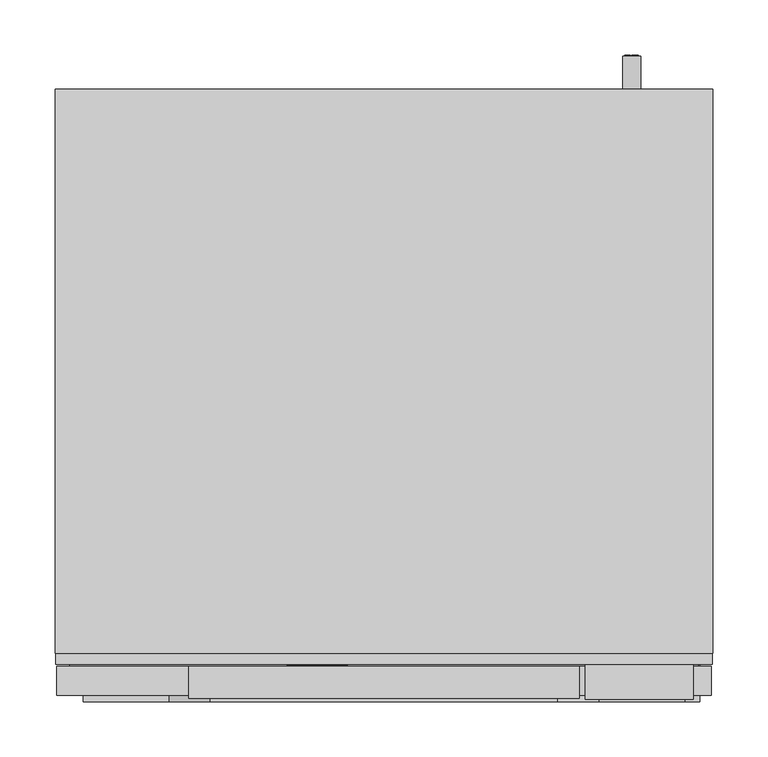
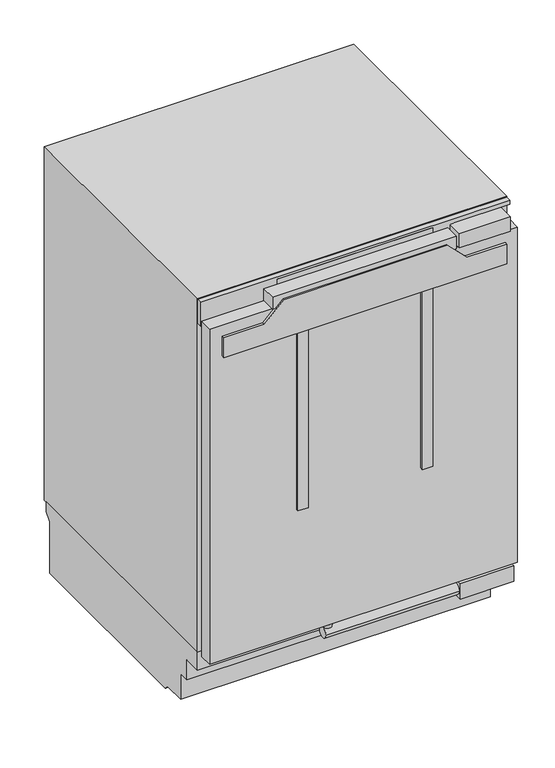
"""IFC4 building model written with IfcOpenShell, lengths in millimetres: proxy geometry, 12519420_EU1_FNUS7140C : 37714010_EU1_12519420_FNUS7140C."""

from ifc_helpers import new_model, si_unit, point, frame, frame_2d, origin, origin_with_axes, place, context, project, spatial, polyline, circle_curve, ellipse_curve, trimmed, segment, composite_curve, outline, extrude, faceted_brep, source, transform, mapped, element, save
from ifc_brep_helpers import plane_surface, cylinder_surface, revolved_surface, extruded_surface, advanced_brep


def specialty_equipment_0b59583f(model_context):
    return source(origin(), model_context, "Body", "SolidModel", [
        extrude(outline(polyline([(835.9349293, -88.017), (835.9349293, -86.928), (829.9139293, -86.928), (829.9139293, -88.017), (828.4019293, -88.017), (828.4019293, -84.057), (829.9139293, -84.057), (829.9139293, -85.137), (833.7360541, -85.137), (828.4019293, -81.114), (833.8421516, -77.073), (829.9139293, -77.073), (829.9139293, -78.18), (828.4019293, -78.18), (828.4019293, -70.998), (829.9139293, -70.998), (829.9139293, -72.141), (835.9349293, -72.141), (835.9349293, -70.998), (837.4019293, -70.998), (837.4019293, -76.479), (834.0269293, -79.107), (837.4019293, -81.744), (837.4019293, -88.017), (835.9349293, -88.017)])), frame((0.0, 33.1, 0.0), z_axis=(0.0, 1.0, 0.0), x_axis=(0.0, 0.0, 1.0)), (0.0, 0.0, 1.0), 1.0),
        extrude(outline(polyline([(835.9349293, -51.495), (835.9349293, -50.415), (829.9139293, -50.415), (829.9139293, -51.495), (828.4019293, -51.495), (828.4019293, -44.196), (829.9139293, -44.196), (829.9139293, -45.303), (837.4019293, -45.303), (837.4019293, -51.495), (835.9349293, -51.495)])), frame((0.0, 33.1, 0.0), z_axis=(0.0, 1.0, 0.0), x_axis=(0.0, 0.0, 1.0)), (0.0, 0.0, 1.0), 1.0),
        extrude(outline(polyline([(836.8709293, -67.857), (835.4129293, -67.173), (836.8349293, -64.122), (838.2929293, -64.797), (836.8709293, -67.857)])), frame((0.0, 33.1, 0.0), z_axis=(0.0, 1.0, 0.0), x_axis=(0.0, 0.0, 1.0)), (0.0, 0.0, 1.0), 1.0),
        extrude(outline(polyline([(835.2149293, -70.08), (833.6039293, -70.08), (833.6039293, -69.009), (829.9139293, -69.009), (829.9139293, -70.08), (828.4019293, -70.08), (828.4019293, -62.979), (829.9139293, -62.979), (829.9139293, -64.023), (835.2149293, -64.023), (835.2149293, -70.08)])), frame((0.0, 33.1, 0.0), z_axis=(0.0, 1.0, 0.0), x_axis=(0.0, 0.0, 1.0)), (0.0, 0.0, 1.0), 1.0),
        advanced_brep(
        [(-58.02, 33.1, 830.5349293), (-58.02, 33.1, 831.4439293), (-51.999, 33.1, 831.4439293), (-62.475, 33.1, 831.4439293), (-60.0, 33.1, 828.4019293), (-52.152, 33.1, 830.5349293), (-54.87, 33.1, 830.5349293), (-57.012, 33.1, 829.5269293), (-58.02, 33.1, 832.5959293), (-58.02, 33.1, 833.5769293), (-56.481, 33.1, 833.5769293), (-56.481, 33.1, 832.5959293), (-58.02, 34.1, 830.5349293), (-57.012, 34.1, 829.5269293), (-54.87, 34.1, 830.5349293), (-52.152, 34.1, 830.5349293), (-60.0, 34.1, 828.4019293), (-62.475, 34.1, 831.4439293), (-51.999, 34.1, 831.4439293), (-58.02, 34.1, 831.4439293), (-58.02, 34.1, 832.5959293), (-56.481, 34.1, 832.5959293), (-56.481, 34.1, 833.5769293), (-58.02, 34.1, 833.5769293)],
        [
            (0, 1),
            (1, 2),
            (2, 3, ellipse_curve(frame((-57.237, 33.1, 831.4439293), z_axis=(0.0, -1.0, 0.0), x_axis=(-1.0, 0.0, 0.0)), 5.238, 4.329)),
            (3, 4, circle_curve(frame((-58.9919509, 33.1, 831.7499293), z_axis=(0.0, -1.0, 0.0), x_axis=(0.0, 0.0, -1.0)), 3.4964649)),
            (4, 5, circle_curve(frame((-57.3418572, 33.1, 834.1259293), z_axis=(0.0, -1.0, 0.0), x_axis=(0.0, 0.0, -1.0)), 6.3110933)),
            (5, 6),
            (6, 7, circle_curve(frame((-56.5720588, 33.1, 831.3719293), z_axis=(0.0, 1.0, 0.0), x_axis=(0.0, 0.0, -1.0)), 1.896727)),
            (7, 0, circle_curve(frame((-57.012, 33.1, 830.5349293), z_axis=(0.0, 1.0, 0.0), x_axis=(0.0, 0.0, -1.0)), 1.008)),
            (8, 9),
            (9, 10, circle_curve(frame((-57.2505, 33.1, 833.5769293), z_axis=(0.0, 1.0, 0.0), x_axis=(0.0, 0.0, -1.0)), 0.7695)),
            (10, 11),
            (11, 8),
            (12, 13, circle_curve(frame((-57.012, 34.1, 830.5349293), z_axis=(0.0, -1.0, 0.0), x_axis=(0.0, 0.0, -1.0)), 1.008)),
            (13, 14, circle_curve(frame((-56.5720588, 34.1, 831.3719293), z_axis=(0.0, -1.0, 0.0), x_axis=(0.0, 0.0, -1.0)), 1.896727)),
            (14, 15),
            (15, 16, circle_curve(frame((-57.3418572, 34.1, 834.1259293), z_axis=(0.0, 1.0, 0.0), x_axis=(0.0, 0.0, -1.0)), 6.3110933)),
            (16, 17, circle_curve(frame((-58.9919509, 34.1, 831.7499293), z_axis=(0.0, 1.0, 0.0), x_axis=(0.0, 0.0, -1.0)), 3.4964649)),
            (17, 18, ellipse_curve(frame((-57.237, 34.1, 831.4439293), z_axis=(0.0, 1.0, 0.0), x_axis=(-1.0, 0.0, 0.0)), 5.238, 4.329)),
            (18, 19),
            (19, 12),
            (20, 21),
            (21, 22),
            (22, 23, circle_curve(frame((-57.2505, 34.1, 833.5769293), z_axis=(0.0, -1.0, 0.0), x_axis=(0.0, 0.0, -1.0)), 0.7695)),
            (23, 20),
            (0, 12),
            (19, 1),
            (18, 2),
            (5, 15),
            (14, 6),
            (17, 3),
            (13, 7),
            (16, 4),
            (8, 20),
            (23, 9),
            (22, 10),
            (21, 11),
        ],
        [
            plane_surface(frame((-58.02, 33.1, 831.4439293), z_axis=(0.0, -1.0, 0.0), x_axis=(0.0, 0.0, 1.0))),
            plane_surface(frame((-58.02, 34.1, 831.4439293), z_axis=(0.0, 1.0, 0.0), x_axis=(0.0, 0.0, -1.0))),
            plane_surface(frame((-58.02, 33.1, 830.5349293), z_axis=(1.0, 0.0, 0.0), x_axis=(0.0, 1.0, 0.0))),
            plane_surface(frame((-58.02, 33.1, 831.4439293), z_axis=(0.0, 0.0, -1.0), x_axis=(0.0, 1.0, 0.0))),
            plane_surface(frame((-52.152, 33.1, 830.5349293), z_axis=(0.0, 0.0, 1.0), x_axis=(0.0, 1.0, 0.0))),
            extruded_surface(trimmed(ellipse_curve(frame((-57.237, 35.1, 831.4439293), z_axis=(0.0, -1.0, 0.0), x_axis=(-1.0, 0.0, 0.0)), 5.238, 4.329), [point((-51.999, 35.1, 831.4439293))], [point((-62.475, 35.1, 831.4439293))], True, "CARTESIAN"), (0.0, -1.0, 0.0), 1.0),
            revolved_surface(polyline([(-56.5720588, 34.1, 829.4752023), (-56.5720588, 33.1, 829.4752023)]), (-56.5720588, 34.1, 831.3719293), (0.0, 1.0, 0.0)),
            revolved_surface(polyline([(-57.012, 34.1, 829.5269293), (-57.012, 33.1, 829.5269293)]), (-57.012, 34.1, 830.5349293), (0.0, 1.0, 0.0)),
            cylinder_surface(frame((-58.9919509, 34.1, 831.7499293), z_axis=(0.0, -1.0, 0.0), x_axis=(0.0, 0.0, -1.0)), 3.4964649),
            cylinder_surface(frame((-57.3418572, 34.1, 834.1259293), z_axis=(0.0, -1.0, 0.0), x_axis=(0.0, 0.0, -1.0)), 6.3110933),
            plane_surface(frame((-58.02, 33.1, 832.5959293), z_axis=(1.0, 0.0, 0.0), x_axis=(0.0, 1.0, 0.0))),
            revolved_surface(polyline([(-57.2505, 34.1, 832.8074293), (-57.2505, 33.1, 832.8074293)]), (-57.2505, 34.1, 833.5769293), (0.0, 1.0, 0.0)),
            plane_surface(frame((-56.481, 33.1, 833.5769293), z_axis=(-1.0, 0.0, 0.0), x_axis=(0.0, 1.0, 0.0))),
            plane_surface(frame((-56.481, 33.1, 832.5959293), z_axis=(0.0, 0.0, 1.0), x_axis=(0.0, 1.0, 0.0))),
        ],
        [
            (0, [[1, 2, 3, 4, 5, 6, 7, 8], [9, 10, 11, 12]]),
            (1, [[13, 14, 15, 16, 17, 18, 19, 20], [21, 22, 23, 24]]),
            (2, [[-1, 25, -20, 26]]),
            (3, [[-2, -26, -19, 27]]),
            (4, [[-6, 28, -15, 29]]),
            (5, [[-3, -27, -18, 30]]),
            (6, [[-7, -29, -14, 31]]),
            (7, [[-8, -31, -13, -25]]),
            (8, [[-4, -30, -17, 32]]),
            (9, [[-5, -32, -16, -28]]),
            (10, [[-9, 33, -24, 34]]),
            (11, [[-10, -34, -23, 35]]),
            (12, [[-11, -35, -22, 36]]),
            (13, [[-12, -36, -21, -33]]),
        ],
    ),
        advanced_brep(
        [(-39.237, 33.1, 830.5349293), (-39.237, 33.1, 831.4439293), (-33.216, 33.1, 831.4439293), (-43.692, 33.1, 831.4439293), (-41.217, 33.1, 828.4019293), (-33.369, 33.1, 830.5349293), (-36.087, 33.1, 830.5349293), (-38.229, 33.1, 829.5269293), (-39.237, 33.1, 832.5959293), (-39.237, 33.1, 833.5769293), (-37.698, 33.1, 833.5769293), (-37.698, 33.1, 832.5959293), (-39.237, 34.1, 830.5349293), (-38.229, 34.1, 829.5269293), (-36.087, 34.1, 830.5349293), (-33.369, 34.1, 830.5349293), (-41.217, 34.1, 828.4019293), (-43.692, 34.1, 831.4439293), (-33.216, 34.1, 831.4439293), (-39.237, 34.1, 831.4439293), (-39.237, 34.1, 832.5959293), (-37.698, 34.1, 832.5959293), (-37.698, 34.1, 833.5769293), (-39.237, 34.1, 833.5769293)],
        [
            (0, 1),
            (1, 2),
            (2, 3, ellipse_curve(frame((-38.454, 33.1, 831.4439293), z_axis=(0.0, -1.0, 0.0), x_axis=(-1.0, 0.0, 0.0)), 5.238, 4.329)),
            (3, 4, circle_curve(frame((-40.2089509, 33.1, 831.7499293), z_axis=(0.0, -1.0, 0.0), x_axis=(0.0, 0.0, -1.0)), 3.4964649)),
            (4, 5, circle_curve(frame((-38.5588572, 33.1, 834.1259293), z_axis=(0.0, -1.0, 0.0), x_axis=(0.0, 0.0, -1.0)), 6.3110933)),
            (5, 6),
            (6, 7, circle_curve(frame((-37.7890588, 33.1, 831.3719293), z_axis=(0.0, 1.0, 0.0), x_axis=(0.0, 0.0, -1.0)), 1.896727)),
            (7, 0, circle_curve(frame((-38.229, 33.1, 830.5349293), z_axis=(0.0, 1.0, 0.0), x_axis=(0.0, 0.0, -1.0)), 1.008)),
            (8, 9),
            (9, 10, circle_curve(frame((-38.4675, 33.1, 833.5769293), z_axis=(0.0, 1.0, 0.0), x_axis=(0.0, 0.0, -1.0)), 0.7695)),
            (10, 11),
            (11, 8),
            (12, 13, circle_curve(frame((-38.229, 34.1, 830.5349293), z_axis=(0.0, -1.0, 0.0), x_axis=(0.0, 0.0, -1.0)), 1.008)),
            (13, 14, circle_curve(frame((-37.7890588, 34.1, 831.3719293), z_axis=(0.0, -1.0, 0.0), x_axis=(0.0, 0.0, -1.0)), 1.896727)),
            (14, 15),
            (15, 16, circle_curve(frame((-38.5588572, 34.1, 834.1259293), z_axis=(0.0, 1.0, 0.0), x_axis=(0.0, 0.0, -1.0)), 6.3110933)),
            (16, 17, circle_curve(frame((-40.2089509, 34.1, 831.7499293), z_axis=(0.0, 1.0, 0.0), x_axis=(0.0, 0.0, -1.0)), 3.4964649)),
            (17, 18, ellipse_curve(frame((-38.454, 34.1, 831.4439293), z_axis=(0.0, 1.0, 0.0), x_axis=(-1.0, 0.0, 0.0)), 5.238, 4.329)),
            (18, 19),
            (19, 12),
            (20, 21),
            (21, 22),
            (22, 23, circle_curve(frame((-38.4675, 34.1, 833.5769293), z_axis=(0.0, -1.0, 0.0), x_axis=(0.0, 0.0, -1.0)), 0.7695)),
            (23, 20),
            (0, 12),
            (19, 1),
            (18, 2),
            (5, 15),
            (14, 6),
            (17, 3),
            (13, 7),
            (16, 4),
            (8, 20),
            (23, 9),
            (22, 10),
            (21, 11),
        ],
        [
            plane_surface(frame((-39.237, 33.1, 831.4439293), z_axis=(0.0, -1.0, 0.0), x_axis=(0.0, 0.0, 1.0))),
            plane_surface(frame((-39.237, 34.1, 831.4439293), z_axis=(0.0, 1.0, 0.0), x_axis=(0.0, 0.0, -1.0))),
            plane_surface(frame((-39.237, 33.1, 830.5349293), z_axis=(1.0, 0.0, 0.0), x_axis=(0.0, 1.0, 0.0))),
            plane_surface(frame((-39.237, 33.1, 831.4439293), z_axis=(0.0, 0.0, -1.0), x_axis=(0.0, 1.0, 0.0))),
            plane_surface(frame((-33.369, 33.1, 830.5349293), z_axis=(0.0, 0.0, 1.0), x_axis=(0.0, 1.0, 0.0))),
            extruded_surface(trimmed(ellipse_curve(frame((-38.454, 35.1, 831.4439293), z_axis=(0.0, -1.0, 0.0), x_axis=(-1.0, 0.0, 0.0)), 5.238, 4.329), [point((-33.216, 35.1, 831.4439293))], [point((-43.692, 35.1, 831.4439293))], True, "CARTESIAN"), (0.0, -1.0, 0.0), 1.0),
            revolved_surface(polyline([(-37.7890588, 34.1, 829.4752023), (-37.7890588, 33.1, 829.4752023)]), (-37.7890588, 34.1, 831.3719293), (0.0, 1.0, 0.0)),
            revolved_surface(polyline([(-38.229, 34.1, 829.5269293), (-38.229, 33.1, 829.5269293)]), (-38.229, 34.1, 830.5349293), (0.0, 1.0, 0.0)),
            cylinder_surface(frame((-40.2089509, 34.1, 831.7499293), z_axis=(0.0, -1.0, 0.0), x_axis=(0.0, 0.0, -1.0)), 3.4964649),
            cylinder_surface(frame((-38.5588572, 34.1, 834.1259293), z_axis=(0.0, -1.0, 0.0), x_axis=(0.0, 0.0, -1.0)), 6.3110933),
            plane_surface(frame((-39.237, 33.1, 832.5959293), z_axis=(1.0, 0.0, 0.0), x_axis=(0.0, 1.0, 0.0))),
            revolved_surface(polyline([(-38.4675, 34.1, 832.8074293), (-38.4675, 33.1, 832.8074293)]), (-38.4675, 34.1, 833.5769293), (0.0, 1.0, 0.0)),
            plane_surface(frame((-37.698, 33.1, 833.5769293), z_axis=(-1.0, 0.0, 0.0), x_axis=(0.0, 1.0, 0.0))),
            plane_surface(frame((-37.698, 33.1, 832.5959293), z_axis=(0.0, 0.0, 1.0), x_axis=(0.0, 1.0, 0.0))),
        ],
        [
            (0, [[1, 2, 3, 4, 5, 6, 7, 8], [9, 10, 11, 12]]),
            (1, [[13, 14, 15, 16, 17, 18, 19, 20], [21, 22, 23, 24]]),
            (2, [[-1, 25, -20, 26]]),
            (3, [[-2, -26, -19, 27]]),
            (4, [[-6, 28, -15, 29]]),
            (5, [[-3, -27, -18, 30]]),
            (6, [[-7, -29, -14, 31]]),
            (7, [[-8, -31, -13, -25]]),
            (8, [[-4, -30, -17, 32]]),
            (9, [[-5, -32, -16, -28]]),
            (10, [[-9, 33, -24, 34]]),
            (11, [[-10, -34, -23, 35]]),
            (12, [[-11, -35, -22, 36]]),
            (13, [[-12, -36, -21, -33]]),
        ],
    ),
        extrude(outline(polyline([(150.0048218, 34.0937347), (-150.0048218, 34.0937347), (-150.0048218, 44.0), (150.0048218, 44.0), (150.0048218, 34.0937347)])), frame((0.0, 0.0, 813.2139282), z_axis=(0.0, 0.0, 1.0), x_axis=(1.0, 0.0, 0.0)), (0.0, 0.0, 1.0), 39.9850464),
        extrude(outline(polyline([(857.6989746, 298.0), (857.6989746, -298.0), (808.7051238, -298.0), (808.7051238, 190.5), (849.0, 190.5), (849.0, 298.0), (857.6989746, 298.0)]), holes=[polyline([(853.1989746, -150.0048218), (853.1989746, 150.0048218), (813.2139282, 150.0048218), (813.2139282, -150.0048218), (853.1989746, -150.0048218)])]), frame((0.0, 34.0937347, 0.0), z_axis=(0.0, 1.0, 0.0), x_axis=(0.0, 0.0, 1.0)), (0.0, 0.0, 1.0), 9.9062653),
        faceted_brep([(-298.5, 550.1, 137.8999939), (-298.5, 550.1, 117.6051112), (-298.5, 537.6, 105.1051112), (-298.5, 537.6, 0.0), (-298.5, 150.9682763, 0.0), (-298.5, 142.6506717, 8.3176046), (-298.5, 100.0, 8.3176046), (-298.5, 100.0, 60.7725754), (-298.5, 79.0216446, 60.7725754), (-298.5, 79.0216446, 101.8184894), (-298.5, 44.0, 101.8184894), (-298.5, 44.0, 137.8999939), (298.5, 550.1, 137.8999939), (298.5, 44.0, 137.8999939), (298.5, 44.0, 101.8184894), (298.5, 79.0216446, 101.8184894), (298.5, 79.0216446, 60.7725754), (298.5, 100.0, 60.7725754), (298.5, 100.0, 8.3176046), (298.5, 142.6506717, 8.3176046), (298.5, 150.9682763, 0.0), (298.5, 537.6, 0.0), (298.5, 537.6, 105.1051112), (298.5, 550.1, 117.6051112), (296.7000122, 463.8596389, 0.0), (256.5957336, 463.8596389, 0.0), (256.5957336, 399.1975098, 0.0), (296.7000122, 399.1975098, 0.0), (-296.7000122, 463.8596389, 0.0), (-296.7000122, 399.1975098, 0.0), (-256.5957336, 399.1975098, 0.0), (-256.5957336, 463.8596389, 0.0), (296.7000122, 463.8596389, 8.7371401), (296.7000122, 399.1975098, 8.7371401), (256.5957336, 399.1975098, 8.7371401), (256.5957336, 463.8596389, 8.7371401), (-296.7000122, 463.8596389, 8.7371401), (-256.5957336, 463.8596389, 8.7371401), (-256.5957336, 399.1975098, 8.7371401), (-296.7000122, 399.1975098, 8.7371401)], [[[0, 1, 2, 3, 4, 5, 6, 7, 8, 9, 10, 11]], [[12, 13, 14, 15, 16, 17, 18, 19, 20, 21, 22, 23]], [[0, 11, 13, 12]], [[11, 10, 14, 13]], [[10, 9, 15, 14]], [[9, 8, 16, 15]], [[8, 7, 17, 16]], [[7, 6, 18, 17]], [[6, 5, 19, 18]], [[5, 4, 20, 19]], [[4, 3, 21, 20], [24, 25, 26, 27], [28, 29, 30, 31]], [[3, 2, 22, 21]], [[2, 1, 23, 22]], [[1, 0, 12, 23]], [[32, 33, 34, 35]], [[36, 37, 38, 39]], [[32, 35, 25, 24]], [[35, 34, 26, 25]], [[34, 33, 27, 26]], [[33, 32, 24, 27]], [[36, 39, 29, 28]], [[39, 38, 30, 29]], [[38, 37, 31, 30]], [[37, 36, 28, 31]]]),
        faceted_brep([(298.5, 44.0, 859.0), (298.5, 44.0, 137.8999939), (298.5, 556.2, 137.8999939), (298.5, 556.2, 859.0), (-298.5, 44.0, 859.0), (-298.5, 556.2, 859.0), (-298.5, 556.2, 137.8999939), (-298.5, 44.0, 137.8999939), (263.0, 44.0, 759.0), (263.0, 44.0, 160.0), (-263.0, 44.0, 160.0), (-263.0, 44.0, 759.0), (263.0, 510.8638012, 160.0), (263.0, 510.8638012, 759.0), (-263.0, 510.8638012, 759.0), (-263.0, 510.8638012, 160.0)], [[[0, 1, 2, 3]], [[4, 5, 6, 7]], [[1, 0, 4, 7], [8, 9, 10, 11]], [[2, 1, 7, 6]], [[3, 2, 6, 5]], [[0, 3, 5, 4]], [[12, 13, 14, 15]], [[13, 12, 9, 8]], [[14, 13, 8, 11]], [[15, 14, 11, 10]], [[12, 15, 10, 9]]]),
        extrude(outline(polyline([(263.0, 510.8638012), (263.0, 339.3), (-263.0, 339.3), (-263.0, 510.8638012), (263.0, 510.8638012)])), frame((0.0, 0.0, 160.0), z_axis=(0.0, 0.0, 1.0), x_axis=(1.0, 0.0, 0.0)), (0.0, 0.0, 1.0), 61.8999939),
        extrude(outline(composite_curve([segment(trimmed(circle_curve(frame_2d((-270.8532135, 135.87603)), 15.7049948), [point((-286.5582083, 135.87603))], [point((-255.1482187, 135.87603))], False, "CARTESIAN"), True, "CONTINUOUS"), segment(trimmed(circle_curve(frame_2d((-270.8532135, 135.87603)), 15.7049948), [point((-255.1482187, 135.87603))], [point((-286.5582083, 135.87603))], False, "CARTESIAN"), True, "CONTINUOUS")], self_intersect=False)), origin_with_axes(), (0.0, 0.0, 1.0), 8.3176046),
        extrude(outline(composite_curve([segment(trimmed(circle_curve(frame_2d((270.8532135, 135.87603)), 15.7049948), [point((286.5582083, 135.87603))], [point((255.1482187, 135.87603))], False, "CARTESIAN"), True, "CONTINUOUS"), segment(trimmed(circle_curve(frame_2d((270.8532135, 135.87603)), 15.7049948), [point((255.1482187, 135.87603))], [point((286.5582083, 135.87603))], False, "CARTESIAN"), True, "CONTINUOUS")], self_intersect=False)), origin_with_axes(), (0.0, 0.0, 1.0), 8.3176046),
        extrude(outline(composite_curve([segment(trimmed(circle_curve(frame_2d((-275.822369, 437.7385329)), 16.0), [point((-291.822369, 437.7385329))], [point((-259.822369, 437.7385329))], False, "CARTESIAN"), True, "CONTINUOUS"), segment(trimmed(circle_curve(frame_2d((-275.822369, 437.7385329)), 16.0), [point((-259.822369, 437.7385329))], [point((-291.822369, 437.7385329))], False, "CARTESIAN"), True, "CONTINUOUS")], self_intersect=False)), origin_with_axes(), (0.0, 0.0, 1.0), 8.3176046),
        extrude(outline(composite_curve([segment(trimmed(circle_curve(frame_2d((275.822369, 437.7385329)), 16.0), [point((259.822369, 437.7385329))], [point((291.822369, 437.7385329))], False, "CARTESIAN"), True, "CONTINUOUS"), segment(trimmed(circle_curve(frame_2d((275.822369, 437.7385329)), 16.0), [point((291.822369, 437.7385329))], [point((259.822369, 437.7385329))], False, "CARTESIAN"), True, "CONTINUOUS")], self_intersect=False)), origin_with_axes(), (0.0, 0.0, 1.0), 8.3176046),
        extrude(outline(composite_curve([segment(trimmed(circle_curve(frame_2d((144.2460785, 224.8152695)), 8.0), [point((144.2460785, 216.8152695))], [point((144.2460785, 232.8152695))], False, "CARTESIAN"), True, "CONTINUOUS"), segment(trimmed(circle_curve(frame_2d((144.2460785, 224.8152695)), 8.0), [point((144.2460785, 232.8152695))], [point((144.2460785, 216.8152695))], False, "CARTESIAN"), True, "CONTINUOUS")], self_intersect=False)), frame((0.0, 556.2, 0.0), z_axis=(0.0, 1.0, 0.0), x_axis=(0.0, 0.0, 1.0)), (0.0, 0.0, 1.0), 30.0),
        extrude(outline(polyline([(140.2460785, 230.7170777), (148.2825833, 230.7170777), (148.2825833, 224.9408399), (147.2780202, 224.9408399), (147.2780202, 229.7125146), (144.8921828, 229.7125146), (144.8921828, 225.1919806), (143.8876197, 225.1919806), (143.8876197, 229.7125146), (141.2506416, 229.7125146), (141.2506416, 224.8152695), (140.2460785, 224.8152695), (140.2460785, 230.7170777)])), frame((0.0, 586.2, 0.0), z_axis=(0.0, 1.0, 0.0), x_axis=(0.0, 0.0, 1.0)), (0.0, 0.0, 1.0), 1.0),
        extrude(outline(polyline([(140.2460785, 223.3084248), (148.2825833, 223.3084248), (148.2825833, 222.3038617), (141.2506416, 222.3038617), (141.2506416, 218.2856093), (140.2460785, 218.2856093), (140.2460785, 223.3084248)])), frame((0.0, 586.2, 0.0), z_axis=(0.0, 1.0, 0.0), x_axis=(0.0, 0.0, 1.0)), (0.0, 0.0, 1.0), 1.0),
        extrude(outline(polyline([(280.7999573, 2.0229698), (182.5283813, 2.0229698), (182.5283813, 44.0), (280.7999573, 44.0), (280.7999573, 2.0229698)])), frame((0.0, 0.0, 820.0), z_axis=(0.0, 0.0, 1.0), x_axis=(1.0, 0.0, 0.0)), (0.0, 0.0, 1.0), 28.7067261),
        extrude(outline(polyline([(297.0, 6.0), (-297.0, 6.0), (-297.0, 32.0), (297.0, 32.0), (297.0, 6.0)])), frame((0.0, 0.0, 136.0), z_axis=(0.0, 0.0, 1.0), x_axis=(1.0, 0.0, 0.0)), (0.0, 0.0, 1.0), 684.0),
        extrude(outline(polyline([(285.0, 44.0), (285.0, 32.0), (-285.0, 32.0), (-285.0, 44.0), (285.0, 44.0)])), frame((0.0, 0.0, 148.5030441), z_axis=(0.0, 0.0, 1.0), x_axis=(1.0, 0.0, 0.0)), (0.0, 0.0, 1.0), 655.9969559),
        extrude(outline(polyline([(844.6210938, 177.3252429), (844.6210938, -177.3251393), (820.0, -177.3252429), (820.0, 177.3252429), (844.6210938, 177.3252429)])), frame((0.0, 3.0, 0.0), z_axis=(0.0, 1.0, 0.0), x_axis=(0.0, 0.0, 1.0)), (0.0, 0.0, 1.0), 29.0),
        extrude(outline(composite_curve([segment(trimmed(circle_curve(frame_2d((14.2130013, 118.3500061)), 10.647874), [point((3.5651273, 118.3500061))], [point((24.8608752, 118.3500061))], False, "CARTESIAN"), True, "CONTINUOUS"), segment(trimmed(circle_curve(frame_2d((14.2130013, 118.3500061)), 10.647874), [point((24.8608752, 118.3500061))], [point((3.5651273, 118.3500061))], False, "CARTESIAN"), True, "CONTINUOUS")], self_intersect=False)), frame((-73.8137398, 0.0, 0.0), z_axis=(1.0, 0.0, 0.0), x_axis=(0.0, 1.0, 0.0)), (0.0, 0.0, 1.0), 257.1515813),
        extrude(outline(composite_curve([segment(trimmed(circle_curve(frame_2d((-65.2000504, 14.2130013)), 8.0), [point((-73.2000504, 14.2130013))], [point((-57.2000504, 14.2130013))], False, "CARTESIAN"), True, "CONTINUOUS"), segment(trimmed(circle_curve(frame_2d((-65.2000504, 14.2130013)), 8.0), [point((-57.2000504, 14.2130013))], [point((-73.2000504, 14.2130013))], False, "CARTESIAN"), True, "CONTINUOUS")], self_intersect=False)), frame((0.0, 0.0, 128.9978801), z_axis=(0.0, 0.0, 1.0), x_axis=(1.0, 0.0, 0.0)), (0.0, 0.0, 1.0), 7.0021199),
        extrude(outline(polyline([(286.7815857, 0.0), (183.3378415, 0.0), (183.3378415, 44.0), (286.7815857, 44.0), (286.7815857, 0.0)])), frame((0.0, 0.0, 104.8), z_axis=(0.0, 0.0, 1.0), x_axis=(1.0, 0.0, 0.0)), (0.0, 0.0, 1.0), 31.2),
        extrude(outline(polyline([(797.315066, -195.1876874), (797.315066, -272.9755319), (756.8499888, -272.9755319), (756.8499888, 272.9755319), (797.315066, 272.9755319), (797.315066, 195.1876874), (834.938205, 157.5645484), (834.938205, -157.5645484), (797.315066, -195.1876874)])), frame((0.0, 0.0, 0.0), z_axis=(0.0, 1.0, 0.0), x_axis=(0.0, 0.0, 1.0)), (0.0, 0.0, 1.0), 6.0),
        extrude(outline(polyline([(-110.0, 0.0), (-130.0, 0.0), (-130.0, 6.0), (-110.0, 6.0), (-110.0, 0.0)])), frame((0.0, 0.0, 394.1054382), z_axis=(0.0, 0.0, 1.0), x_axis=(1.0, 0.0, 0.0)), (0.0, 0.0, 1.0), 362.7445505),
        extrude(outline(polyline([(130.0, 0.0), (110.0, 0.0), (110.0, 6.0), (130.0, 6.0), (130.0, 0.0)])), frame((0.0, 0.0, 394.1054382), z_axis=(0.0, 0.0, 1.0), x_axis=(1.0, 0.0, 0.0)), (0.0, 0.0, 1.0), 362.7445505),
    ])


if __name__ == "__main__":
    model = new_model("IFC4")
    model_context = context("Model", 3, world=origin())
    ifc_project = project(units=[si_unit("LENGTHUNIT", "METRE", prefix="MILLI")], contexts=[model_context])
    site = spatial("IfcSite", under=ifc_project)
    building = spatial("IfcBuilding", under=site)
    placement = place(None, origin())
    specialty_equipment_shape = specialty_equipment_0b59583f(model_context)
    element("IfcBuildingElementProxy", 1, Name="12519420_EU1_FNUS7140C : 37714010_EU1_12519420_FNUS7140C", ObjectType="12519420_EU1_FNUS7140C : 37714010_EU1_12519420_FNUS7140C", at=placement, inside=building, context=model_context, shape_type="MappedRepresentation", body=[
        mapped(specialty_equipment_shape, transform((0.0, 0.0, 0.0), x_axis=(1.0, 0.0, 0.0), y_axis=(0.0, 1.0, 0.0), z_axis=(0.0, 0.0, 1.0))),
    ])
    save(model, "model.ifc")
